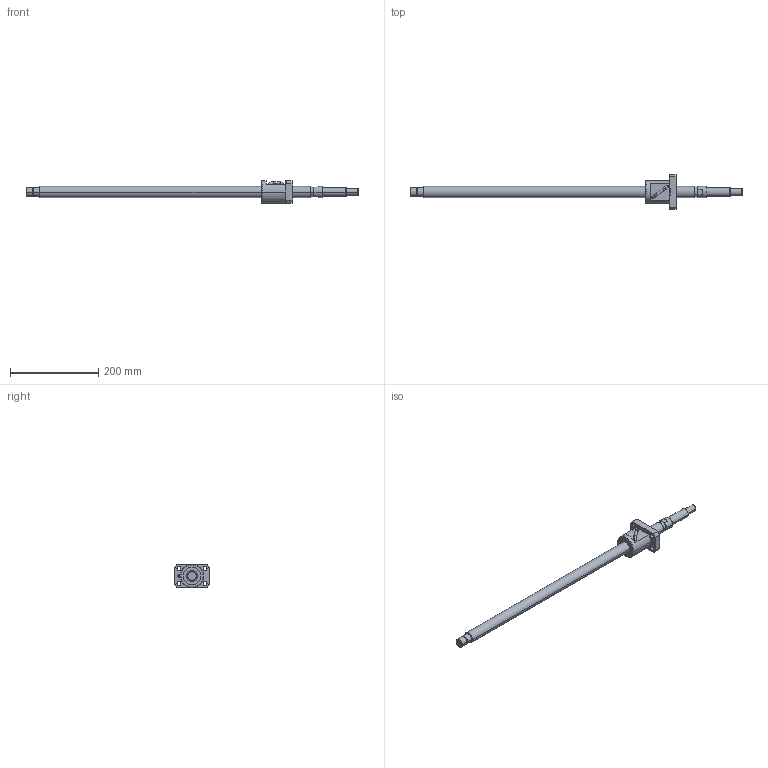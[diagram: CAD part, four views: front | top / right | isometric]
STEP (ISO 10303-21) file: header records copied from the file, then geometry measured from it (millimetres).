
FILE_DESCRIPTION (( 'STEP AP214' ), '1' );
FILE_NAME ('BS2520A-3D.STEP', '2014-03-05T14:54:15', ( '' ), ( '' ), 'SwSTEP 2.0', 'SolidWorks 2012', '' );
FILE_SCHEMA (( 'AUTOMOTIVE_DESIGN' ));
Length unit declared in the file: millimetre
Products named in the file (3): BS2520Aナット; BS2520AŽ²; BS2520A-3D
Assembly tree (2 placements, depth 2):
  BS2520A-3D
    BS2520AŽ²
    BS2520Aナット
Bounding box: 751 x 78 x 52 mm (x, y, z)
Volume: 462881.8 mm3; surface area: 88115.7 mm2
Topology: 2 solids, 2 shells, 154 faces, 394 edges, 254 vertices
Faces by surface type: cylinder 72, plane 42, cone 34, torus 4, bspline 2
Entity records: 5972 total; most frequent: CARTESIAN_POINT 2000, DIRECTION 824, ORIENTED_EDGE 784, EDGE_CURVE 392, AXIS2_PLACEMENT_3D 342, VERTEX_POINT 254, EDGE_LOOP 186, CIRCLE 185
